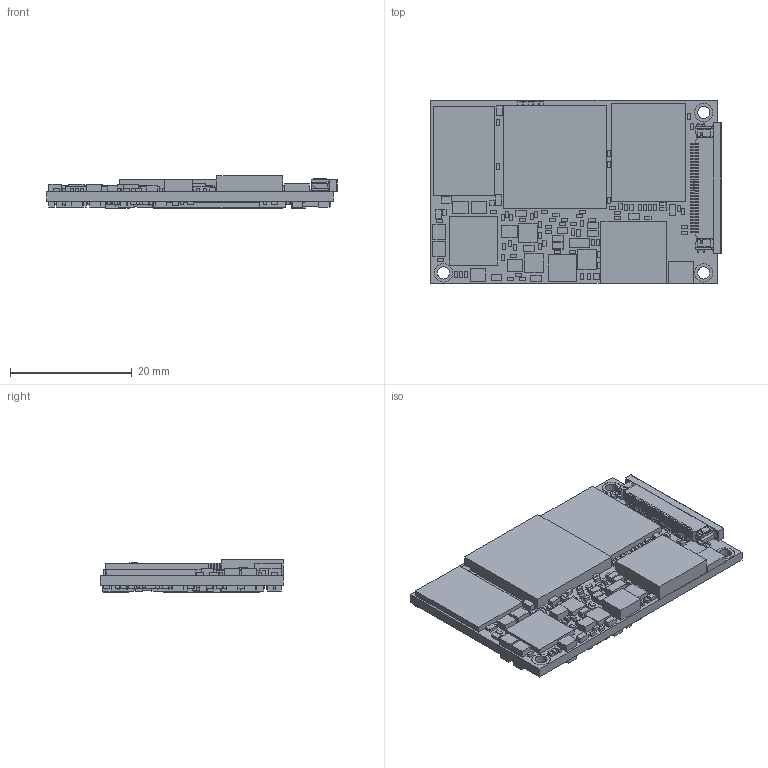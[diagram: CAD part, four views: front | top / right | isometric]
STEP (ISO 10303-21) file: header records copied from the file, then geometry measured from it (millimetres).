
FILE_DESCRIPTION (( 'STEP AP214' ), '1' );
FILE_NAME ('IMX8-M SOM Assembly.STEP', '2019-11-03T09:46:27', ( '' ), ( '' ), 'SwSTEP 2.0', 'SolidWorks 2017', '' );
FILE_SCHEMA (( 'AUTOMOTIVE_DESIGN' ));
Length unit declared in the file: millimetre
Products named in the file (5): FPC Bottom Entry 30pos 0.5 pitch_WE 68713014522; IMX8-M SOM; IMX8-M SOM Assembly; DF40C-80DP; DF40C-70DP
Assembly tree (5 placements, depth 2):
  IMX8-M SOM Assembly
    IMX8-M SOM
    DF40C-70DP
    DF40C-80DP  x2
    FPC Bottom Entry 30pos 0.5 pitch_WE 68713014522
Bounding box: 47.67 x 30.05 x 5.34 mm (x, y, z)
Volume: 4269.1 mm3; surface area: 8639.1 mm2
Topology: 363 solids, 363 shells, 6526 faces, 17508 edges, 11606 vertices
Faces by surface type: plane 5385, cylinder 1093, bspline 36, cone 12
Entity records: 228677 total; most frequent: CARTESIAN_POINT 29843, ORIENTED_EDGE 28540, DIRECTION 26446, EDGE_CURVE 14270, VECTOR 12732, LINE 12732, VERTEX_POINT 9454, AXIS2_PLACEMENT_3D 6857
